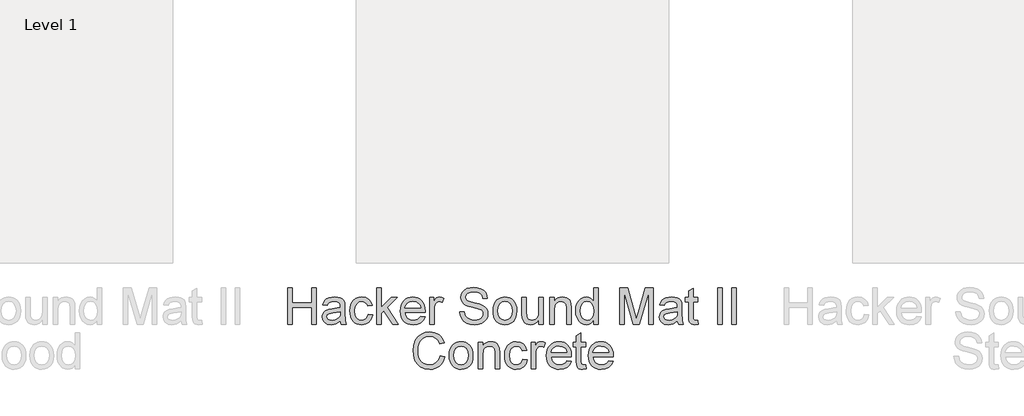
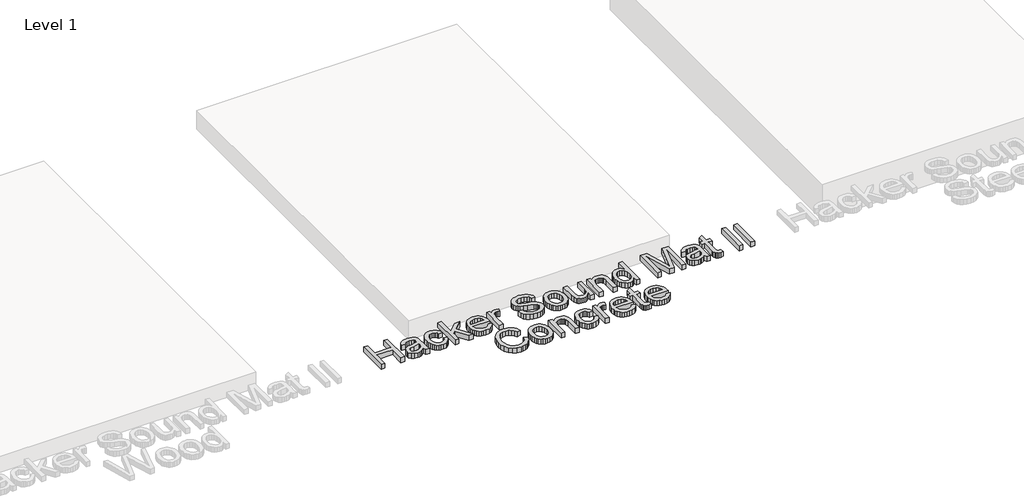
# One storey, part 2 of 3: 1 proxy.
"""IFC4 building model written with IfcOpenShell, lengths in millimetres."""

from ifc_helpers import new_model, si_unit, origin, origin_with_axes, place, context, project, spatial, polyline, outline, extrude, element, save

model = new_model("IFC4")

# Units and contexts
model_context = context("Model", 3, world=origin())
ifc_project = project(units=[si_unit("LENGTHUNIT", "METRE", prefix="MILLI")], contexts=[model_context])

# Site, building, storey
site = spatial("IfcSite", under=ifc_project)
building = spatial("IfcBuilding", under=site)
storey = spatial("IfcBuildingStorey", under=building, Name="Level 1", Elevation=0.0)

# Proxy
placement = place(None, origin())
element("IfcBuildingElementProxy", 1, Name="600mm Arial", ObjectType="600mm Arial", at=placement, inside=storey, context=model_context, shape_type="SweptSolid", body=[
    extrude(outline(polyline([(7120.3560774, -15959.6490726), (7120.3560774, -15659.5383034), (7157.8699235, -15659.5383034), (7157.8699235, -15781.4583034), (7317.3037697, -15781.4583034), (7317.3037697, -15659.5383034), (7354.8176159, -15659.5383034), (7354.8176159, -15959.6490726), (7317.3037697, -15959.6490726), (7317.3037697, -15818.9721496), (7157.8699235, -15818.9721496), (7157.8699235, -15959.6490726), (7120.3560774, -15959.6490726)])), origin_with_axes(), (0.0, 0.0, 1.0), 50.8),
    extrude(outline(polyline([(7556.4545389, -15931.513688), (7538.5310534, -15946.8819092), (7520.0763659, -15956.9381111), (7500.6691784, -15962.4882553), (7479.8881928, -15964.3383034), (7448.5381207, -15959.8871976), (7425.4125197, -15946.5338803), (7411.1524957, -15926.2566207), (7406.3991543, -15901.033688), (7408.1942505, -15885.4822938), (7413.5795389, -15871.3596496), (7421.886438, -15859.2702265), (7432.4463659, -15849.8184957), (7458.7133851, -15837.5092649), (7491.1716543, -15831.8675342), (7529.5280966, -15825.9327265), (7556.2347312, -15818.9721496), (7556.4545389, -15810.6194572), (7553.8717985, -15793.877438), (7546.1235774, -15782.923688), (7528.7954043, -15774.7908034), (7504.6531928, -15772.0798419), (7482.3060774, -15773.8840967), (7466.6997312, -15779.2968611), (7456.0573755, -15789.3072697), (7448.6022312, -15804.9044572), (7411.0883851, -15800.2152265), (7417.600188, -15779.6998419), (7427.3175197, -15763.5806111), (7441.147087, -15751.253063), (7459.9955966, -15742.1127265), (7483.0479284, -15736.4526784), (7509.488962, -15734.5659957), (7534.8492745, -15736.2328707), (7554.9525197, -15741.2334957), (7570.1100918, -15748.7527505), (7580.6333851, -15757.9755149), (7587.6122793, -15769.378039), (7592.1366543, -15783.4365726), (7593.9683851, -15816.261188), (7593.9683851, -15862.933688), (7595.8733851, -15928.1066688), (7603.3468466, -15959.6490726), (7565.8330005, -15959.6490726), (7556.4545389, -15931.513688)]), holes=[polyline([(7556.4545389, -15856.4859957), (7495.9341543, -15867.9892649), (7463.6590582, -15874.0706111), (7449.0418466, -15883.9619572), (7443.9130005, -15898.3959957), (7446.7063899, -15909.5512361), (7455.0865582, -15918.6915726), (7468.8703322, -15924.7912361), (7487.8745389, -15926.8244572), (7508.0235774, -15924.5805871), (7525.8280005, -15917.8489765), (7540.2620389, -15907.9301544), (7550.2999235, -15896.1246496), (7554.7510293, -15883.9619572), (7556.2347312, -15867.1100342), (7556.4545389, -15856.4859957)])]), origin_with_axes(), (0.0, 0.0, 1.0), 50.8),
    extrude(outline(polyline([(7786.2268466, -15879.9321496), (7823.7406928, -15884.6213803), (7813.2815101, -15917.9863563), (7793.6270389, -15943.2001303), (7766.6273274, -15959.0537601), (7734.1324235, -15964.3383034), (7713.092706, -15962.4951243), (7694.2281687, -15956.9655871), (7677.5388118, -15947.7496916), (7663.0246351, -15934.847438), (7651.2763719, -15918.5015306), (7642.8847553, -15898.9546736), (7637.8497853, -15876.2068671), (7636.171462, -15850.2581111), (7639.0381207, -15816.8748178), (7647.6380966, -15787.9426303), (7662.1087697, -15764.5789044), (7682.5875197, -15747.9009957), (7707.0869187, -15737.8997457), (7733.6195389, -15734.5659957), (7765.3176399, -15739.1453226), (7790.6596351, -15752.8833034), (7808.839563, -15775.0472457), (7819.051462, -15804.9044572), (7781.5376159, -15809.593688), (7774.732736, -15793.2271736), (7764.1361735, -15781.494938), (7750.3340822, -15774.4336159), (7733.9126159, -15772.0798419), (7709.6696591, -15776.7141207), (7690.4273274, -15790.6169572), (7677.870813, -15814.5393611), (7673.6853082, -15849.2323419), (7677.7792264, -15884.392414), (7690.0609812, -15908.3972457), (7708.9552841, -15922.2176544), (7732.8868466, -15926.8244572), (7752.3123514, -15923.9486399), (7768.2392505, -15915.321188), (7779.8249476, -15900.7222938), (7786.2268466, -15879.9321496)])), origin_with_axes(), (0.0, 0.0, 1.0), 50.8),
    extrude(outline(polyline([(7856.5653082, -15959.6490726), (7856.5653082, -15659.5383034), (7894.0791543, -15659.5383034), (7894.0791543, -15820.8038803), (7978.1922312, -15739.2552265), (8030.0668466, -15739.2552265), (7944.9280005, -15821.8296496), (8034.7560774, -15959.6490726), (7990.9410774, -15959.6490726), (7918.0381928, -15847.9134957), (7894.0791543, -15871.1398419), (7894.0791543, -15959.6490726), (7856.5653082, -15959.6490726)])), origin_with_axes(), (0.0, 0.0, 1.0), 50.8),
    extrude(outline(polyline([(8221.8856928, -15893.9998419), (8258.6668466, -15898.6890726), (8245.4142745, -15926.4031592), (8224.2669428, -15947.1200342), (8195.7011014, -15960.0337361), (8160.1930005, -15964.3383034), (8136.9162817, -15962.4813863), (8116.1765101, -15956.9106351), (8097.9736856, -15947.6260498), (8082.3078082, -15934.6276303), (8069.7100798, -15918.2771435), (8060.7117024, -15898.9363563), (8055.312676, -15876.6052685), (8053.5130005, -15851.2838803), (8055.3309933, -15825.1038683), (8060.7849716, -15802.0286399), (8069.8749356, -15782.0581952), (8082.6008851, -15765.1925342), (8098.2255485, -15751.7934236), (8116.0116543, -15742.2226303), (8135.9592024, -15736.4801544), (8158.0681928, -15734.5659957), (8179.4650978, -15736.475575), (8198.8150437, -15742.204313), (8216.1180305, -15751.7522096), (8231.3740582, -15765.1192649), (8243.8275377, -15781.9482914), (8252.7228803, -15801.8821015), (8258.0600858, -15824.9206952), (8259.8391543, -15851.0640726), (8259.6193466, -15861.1752265), (8091.0268466, -15861.1752265), (8097.5203322, -15889.2556592), (8112.6046351, -15909.8992649), (8134.3747553, -15922.5931592), (8160.9256928, -15926.8244572), (8180.8915582, -15924.8645053), (8197.7068466, -15918.9846496), (8211.3715582, -15908.8185438), (8221.8856928, -15893.9998419)]), holes=[polyline([(8091.0268466, -15823.6613803), (8222.3253082, -15823.6613803), (8217.2514139, -15803.8420534), (8207.3051159, -15789.6644572), (8185.4342505, -15776.4759957), (8157.9216543, -15772.0798419), (8132.634611, -15775.5876063), (8111.7254043, -15786.1108996), (8097.1906207, -15802.5140486), (8091.0268466, -15823.6613803)])]), origin_with_axes(), (0.0, 0.0, 1.0), 50.8),
    extrude(outline(polyline([(8297.3530005, -15959.6490726), (8297.3530005, -15739.2552265), (8330.1776159, -15739.2552265), (8330.1776159, -15771.8600342), (8342.3036735, -15752.9565726), (8353.4772312, -15741.8196496), (8364.6874235, -15736.3794092), (8376.9233851, -15734.5659957), (8395.6070389, -15737.4601303), (8414.5837697, -15746.1425342), (8402.0547312, -15779.7731111), (8388.8662697, -15774.0031592), (8375.6778082, -15772.0798419), (8364.4767745, -15773.9298899), (8354.4663659, -15779.4800342), (8346.3792745, -15788.3089765), (8340.9481928, -15799.9954188), (8336.3871832, -15820.9504188), (8334.8668466, -15843.8104188), (8334.8668466, -15959.6490726), (8297.3530005, -15959.6490726)])), origin_with_axes(), (0.0, 0.0, 1.0), 50.8),
    extrude(outline(polyline([(8545.8822312, -15856.4859957), (8583.3960774, -15856.4859957), (8587.7006447, -15877.3036159), (8595.4855005, -15894.0364765), (8607.6298755, -15907.3165246), (8625.0130005, -15917.7757072), (8646.2610774, -15924.5622697), (8670.0003082, -15926.8244572), (8690.9003562, -15925.111789), (8709.1993466, -15919.9737842), (8724.0272072, -15911.8408996), (8734.5138659, -15901.1435919), (8740.7509091, -15888.8618371), (8742.8299235, -15875.9756111), (8741.2729524, -15863.4190967), (8736.6020389, -15852.5660919), (8727.1136735, -15843.3066928), (8711.1043466, -15835.5309957), (8656.4821351, -15821.2068611), (8620.6260053, -15811.7276544), (8597.6835774, -15802.7063803), (8579.0090822, -15790.0857553), (8565.7748274, -15774.7908034), (8557.8892264, -15757.1512361), (8555.2606928, -15737.4967649), (8558.5120149, -15715.5251544), (8568.2659812, -15695.0372457), (8584.2661495, -15677.672438), (8606.2560774, -15665.0701303), (8632.6513178, -15657.4043371), (8661.8674235, -15654.8490726), (8693.5197312, -15657.5233996), (8721.2155005, -15665.5463803), (8743.9655966, -15678.7531592), (8760.7808851, -15696.9788803), (8771.4232409, -15719.0878707), (8775.6545389, -15743.9444572), (8738.1406928, -15743.9444572), (8731.2533851, -15721.5607072), (8716.8926159, -15705.4048419), (8694.4539139, -15695.6233996), (8663.3328082, -15692.3629188), (8631.4790101, -15695.5867649), (8609.626462, -15705.2583034), (8596.9875197, -15719.4908515), (8592.7745389, -15736.3977265), (8595.7602601, -15750.8134476), (8604.7174235, -15762.4083034), (8625.8922312, -15772.7758996), (8665.9705005, -15783.3633034), (8707.3309812, -15793.4195053), (8732.3524235, -15802.1934957), (8753.7378803, -15815.8032553), (8768.6573274, -15832.6002265), (8777.4221591, -15852.4012361), (8780.3437697, -15875.0231111), (8776.9825437, -15898.1487121), (8766.8988659, -15919.9005149), (8750.5048755, -15938.6208034), (8728.212712, -15952.6518611), (8701.4053322, -15961.4166928), (8671.4656928, -15964.3383034), (8634.7120149, -15961.1877265), (8604.4609812, -15951.7359957), (8580.364563, -15935.9464765), (8562.0747312, -15913.7825342), (8550.333337, -15886.7828226), (8545.8822312, -15856.4859957)])), origin_with_axes(), (0.0, 0.0, 1.0), 50.8),
    extrude(outline(polyline([(8822.5468466, -15849.4521496), (8824.5754885, -15820.9092048), (8830.6614139, -15796.3136399), (8840.8046231, -15775.6654548), (8855.0051159, -15758.9646496), (8869.3017745, -15748.2902385), (8885.0821351, -15740.6656592), (8902.3461976, -15736.0909116), (8921.093962, -15734.5659957), (8941.79023, -15736.4229128), (8960.5036495, -15741.993664), (8977.2342204, -15751.2782493), (8991.9819428, -15764.2766688), (9004.0187036, -15780.549307), (9012.6163899, -15799.6565486), (9017.7750017, -15821.5983935), (9019.4945389, -15846.3748419), (9016.4538659, -15884.2733515), (9007.3318466, -15913.1231111), (8992.3940822, -15934.7283755), (8971.9061735, -15950.8933996), (8947.5716303, -15960.9770774), (8921.093962, -15964.3383034), (8900.0954584, -15962.4882553), (8881.2080245, -15956.9381111), (8864.4316603, -15947.6878707), (8849.7663659, -15934.7375342), (8837.8578262, -15918.3069092), (8829.3517264, -15898.6158034), (8824.2480666, -15875.6642169), (8822.5468466, -15849.4521496)]), holes=[polyline([(8860.0606928, -15849.3788803), (8864.4018947, -15883.3300101), (8877.4255005, -15907.5180149), (8897.0250197, -15921.9978467), (8921.093962, -15926.8244572), (8945.0530005, -15921.9703707), (8964.6158851, -15907.4081111), (8977.6394909, -15882.8995534), (8981.9806928, -15848.2065726), (8977.6120149, -15815.2445774), (8964.5059812, -15791.3862842), (8944.9156207, -15776.9064524), (8921.093962, -15772.0798419), (8897.0250197, -15776.8881351), (8877.4255005, -15791.3130149), (8864.4018947, -15815.4460678), (8860.0606928, -15849.3788803)])]), origin_with_axes(), (0.0, 0.0, 1.0), 50.8),
    extrude(outline(polyline([(9202.3745389, -15959.6490726), (9202.3745389, -15921.7688803), (9188.8014139, -15940.3930029), (9172.9935774, -15953.6959476), (9154.9510293, -15961.6777145), (9134.6737697, -15964.3383034), (9116.4022553, -15962.469938), (9099.3946351, -15956.8648419), (9085.1254524, -15948.4388803), (9075.0692505, -15938.1079188), (9063.8956928, -15910.4854188), (9061.6976159, -15875.6092649), (9061.6976159, -15739.2552265), (9099.211462, -15739.2552265), (9099.211462, -15857.9513803), (9101.4828082, -15896.1979188), (9106.9505245, -15908.9559236), (9116.3198274, -15918.654938), (9128.9679284, -15924.7820774), (9144.2720389, -15926.8244572), (9160.4553803, -15924.7362842), (9175.5946351, -15918.4717649), (9188.0778803, -15908.6078947), (9196.2931928, -15895.7216688), (9200.8542024, -15878.0729428), (9202.3745389, -15853.9215726), (9202.3745389, -15739.2552265), (9239.8883851, -15739.2552265), (9239.8883851, -15959.6490726), (9202.3745389, -15959.6490726)])), origin_with_axes(), (0.0, 0.0, 1.0), 50.8),
    extrude(outline(polyline([(9291.4699235, -15959.6490726), (9291.4699235, -15739.2552265), (9328.9837697, -15739.2552265), (9328.9837697, -15770.0283034), (9342.0165341, -15754.5135438), (9357.6686735, -15743.4315726), (9375.940188, -15736.7823899), (9396.8310774, -15734.5659957), (9415.3223995, -15736.3519332), (9432.2567505, -15741.7097457), (9446.3793947, -15749.9708515), (9456.4355966, -15760.4666688), (9467.6824235, -15788.0525342), (9469.6606928, -15824.3208034), (9469.6606928, -15959.6490726), (9432.1468466, -15959.6490726), (9432.1468466, -15829.3763803), (9427.823962, -15796.1854188), (9421.843361, -15786.3032313), (9412.5473274, -15778.637438), (9400.6319187, -15773.7192409), (9386.7931928, -15772.0798419), (9364.8215822, -15775.7616207), (9346.0921351, -15786.8069572), (9338.6072252, -15795.823652), (9333.260861, -15808.1466207), (9328.9837697, -15842.7113803), (9328.9837697, -15959.6490726), (9291.4699235, -15959.6490726)])), origin_with_axes(), (0.0, 0.0, 1.0), 50.8),
    extrude(outline(polyline([(9657.2299235, -15959.6490726), (9657.2299235, -15924.2600342), (9646.0059933, -15941.794277), (9632.4099716, -15954.3187361), (9616.4418586, -15961.8334116), (9598.1016543, -15964.3383034), (9573.8495389, -15960.7114765), (9551.648962, -15949.8309957), (9532.8554043, -15932.4570294), (9518.8243466, -15909.3497457), (9510.0869909, -15881.4433274), (9507.1745389, -15849.6719572), (9509.8580245, -15818.2944092), (9517.9084812, -15789.9575342), (9531.3167505, -15766.2732553), (9550.0736735, -15748.8534957), (9572.7596591, -15738.1378707), (9597.9551159, -15734.5659957), (9616.3090582, -15737.1212601), (9632.5381928, -15744.7870534), (9646.2944909, -15756.5376063), (9657.2299235, -15771.3471496), (9657.2299235, -15659.5383034), (9694.7437697, -15659.5383034), (9694.7437697, -15959.6490726), (9657.2299235, -15959.6490726)]), holes=[polyline([(9544.6883851, -15849.5254188), (9548.9196832, -15883.4582313), (9561.6135774, -15907.5912842), (9580.0591062, -15922.016164), (9601.5453082, -15926.8244572), (9623.0223514, -15922.2359717), (9641.0007889, -15908.4705149), (9653.1726399, -15885.2716447), (9657.2299235, -15852.3829188), (9653.0993707, -15816.4260438), (9640.707712, -15791.496188), (9622.2713418, -15776.9339284), (9600.0066543, -15772.0798419), (9578.3006447, -15776.7415967), (9560.5145389, -15790.7268611), (9548.6449235, -15814.7500101), (9544.6883851, -15849.5254188)])]), origin_with_axes(), (0.0, 0.0, 1.0), 50.8),
    extrude(outline(polyline([(9872.9345389, -15959.6490726), (9872.9345389, -15659.5383034), (9937.4847312, -15659.5383034), (9998.8843466, -15871.0665726), (10011.2668466, -15915.2479188), (10024.6751159, -15867.4031111), (10085.048962, -15659.5383034), (10149.5991543, -15659.5383034), (10149.5991543, -15959.6490726), (10112.0853082, -15959.6490726), (10112.0853082, -15697.0521496), (10036.6912697, -15959.6490726), (9985.8424235, -15959.6490726), (9910.4483851, -15697.0521496), (9910.4483851, -15959.6490726), (9872.9345389, -15959.6490726)])), origin_with_axes(), (0.0, 0.0, 1.0), 50.8),
    extrude(outline(polyline([(10351.2360774, -15931.513688), (10333.3125918, -15946.8819092), (10314.8579043, -15956.9381111), (10295.4507168, -15962.4882553), (10274.6697312, -15964.3383034), (10243.3196591, -15959.8871976), (10220.1940582, -15946.5338803), (10205.9340341, -15926.2566207), (10201.1806928, -15901.033688), (10202.9757889, -15885.4822938), (10208.3610774, -15871.3596496), (10216.6679764, -15859.2702265), (10227.2279043, -15849.8184957), (10253.4949235, -15837.5092649), (10285.9531928, -15831.8675342), (10324.3096351, -15825.9327265), (10351.0162697, -15818.9721496), (10351.2360774, -15810.6194572), (10348.653337, -15793.877438), (10340.9051159, -15782.923688), (10323.5769428, -15774.7908034), (10299.4347312, -15772.0798419), (10277.0876159, -15773.8840967), (10261.4812697, -15779.2968611), (10250.8389139, -15789.3072697), (10243.3837697, -15804.9044572), (10205.8699235, -15800.2152265), (10212.3817264, -15779.6998419), (10222.0990582, -15763.5806111), (10235.9286255, -15751.253063), (10254.7771351, -15742.1127265), (10277.8294668, -15736.4526784), (10304.2705005, -15734.5659957), (10329.630813, -15736.2328707), (10349.7340582, -15741.2334957), (10364.8916303, -15748.7527505), (10375.4149235, -15757.9755149), (10382.3938178, -15769.378039), (10386.9181928, -15783.4365726), (10388.7499235, -15816.261188), (10388.7499235, -15862.933688), (10390.6549235, -15928.1066688), (10398.1283851, -15959.6490726), (10360.6145389, -15959.6490726), (10351.2360774, -15931.513688)]), holes=[polyline([(10351.2360774, -15856.4859957), (10290.7156928, -15867.9892649), (10258.4405966, -15874.0706111), (10243.8233851, -15883.9619572), (10238.6945389, -15898.3959957), (10241.4879284, -15909.5512361), (10249.8680966, -15918.6915726), (10263.6518707, -15924.7912361), (10282.6560774, -15926.8244572), (10302.8051159, -15924.5805871), (10320.6095389, -15917.8489765), (10335.0435774, -15907.9301544), (10345.081462, -15896.1246496), (10349.5325678, -15883.9619572), (10351.0162697, -15867.1100342), (10351.2360774, -15856.4859957)])]), origin_with_axes(), (0.0, 0.0, 1.0), 50.8),
    extrude(outline(polyline([(10520.0483851, -15928.3631111), (10524.7376159, -15960.7481111), (10496.6755005, -15964.3383034), (10478.669587, -15962.7813322), (10465.2430005, -15958.1104188), (10455.7546351, -15950.9117169), (10449.5633851, -15941.7713803), (10446.1563659, -15926.0734476), (10445.0206928, -15899.2019572), (10445.0206928, -15776.7690726), (10416.8853082, -15776.7690726), (10416.8853082, -15739.2552265), (10445.0206928, -15739.2552265), (10445.0206928, -15685.6954188), (10482.5345389, -15663.6413803), (10482.5345389, -15739.2552265), (10520.0483851, -15739.2552265), (10520.0483851, -15776.7690726), (10482.5345389, -15776.7690726), (10482.5345389, -15898.1029188), (10484.5128082, -15917.4459957), (10490.9238659, -15924.2966688), (10503.7093466, -15926.8244572), (10520.0483851, -15928.3631111)])), origin_with_axes(), (0.0, 0.0, 1.0), 50.8),
    extrude(outline(polyline([(10684.171462, -15959.6490726), (10684.171462, -15659.5383034), (10721.6853082, -15659.5383034), (10721.6853082, -15959.6490726), (10684.171462, -15959.6490726)])), origin_with_axes(), (0.0, 0.0, 1.0), 50.8),
    extrude(outline(polyline([(10801.4022312, -15959.6490726), (10801.4022312, -15659.5383034), (10838.9160774, -15659.5383034), (10838.9160774, -15959.6490726), (10801.4022312, -15959.6490726)])), origin_with_axes(), (0.0, 0.0, 1.0), 50.8),
    extrude(outline(polyline([(8384.1037697, -16223.4183034), (8421.6176159, -16233.0898419), (8414.1945269, -16256.4192229), (8404.3077601, -16276.8040967), (8391.9573154, -16294.2444633), (8377.1431928, -16308.7403226), (8360.1996832, -16320.1359777), (8341.4610774, -16328.2757313), (8320.9273755, -16333.1595834), (8298.5985774, -16334.7875342), (8255.085813, -16329.8601784), (8220.530212, -16315.0781111), (8194.0433851, -16290.9542169), (8174.7369428, -16258.0013803), (8162.9497553, -16219.2602746), (8159.0206928, -16177.7715726), (8163.4626399, -16134.0115246), (8176.7884812, -16096.2229188), (8198.3021591, -16065.605539), (8227.3076159, -16043.3591688), (8261.7075197, -16029.8135197), (8299.4045389, -16025.2983034), (8340.5360534, -16031.1415246), (8358.4297733, -16038.445551), (8374.5421351, -16048.671188), (8388.6075377, -16061.5482553), (8400.3603803, -16076.8065726), (8416.9283851, -16114.4669572), (8379.4145389, -16123.4058034), (8366.4092505, -16096.0489044), (8348.641462, -16077.2828226), (8325.8913659, -16066.4298178), (8297.9391543, -16062.8121496), (8265.7190101, -16066.8236399), (8239.2505005, -16078.8581111), (8219.1655726, -16097.6516688), (8206.0961735, -16121.9404188), (8198.9249476, -16149.398063), (8196.5345389, -16177.6983034), (8199.364563, -16212.3546496), (8207.8546351, -16242.3217649), (8222.3253082, -16266.4548178), (8243.0971351, -16283.6089765), (8267.9995149, -16293.8575101), (8294.8618466, -16297.273688), (8326.1752841, -16292.6210919), (8352.2682889, -16278.6633034), (8371.9685534, -16255.5468611), (8384.1037697, -16223.4183034)])), origin_with_axes(), (0.0, 0.0, 1.0), 50.8),
    extrude(outline(polyline([(8459.131462, -16219.9013803), (8461.1601038, -16191.3584356), (8467.2460293, -16166.7628707), (8477.3892385, -16146.1146856), (8491.5897312, -16129.4138803), (8505.8863899, -16118.7394693), (8521.6667505, -16111.1148899), (8538.930813, -16106.5401423), (8557.6785774, -16105.0152265), (8578.3748454, -16106.8721435), (8597.0882649, -16112.4428947), (8613.8188358, -16121.7274801), (8628.5665582, -16134.7258996), (8640.603319, -16150.9985378), (8649.2010053, -16170.1057794), (8654.3596171, -16192.0476243), (8656.0791543, -16216.8240726), (8653.0384812, -16254.7225822), (8643.916462, -16283.5723419), (8628.9786976, -16305.1776063), (8608.4907889, -16321.3426303), (8584.1562457, -16331.4263082), (8557.6785774, -16334.7875342), (8536.6800738, -16332.9374861), (8517.7926399, -16327.3873419), (8501.0162757, -16318.1371015), (8486.3509812, -16305.1867649), (8474.4424416, -16288.7561399), (8465.9363418, -16269.0650342), (8460.832682, -16246.1134476), (8459.131462, -16219.9013803)]), holes=[polyline([(8496.6453082, -16219.8281111), (8500.9865101, -16253.7792409), (8514.0101159, -16277.9672457), (8533.6096351, -16292.4470774), (8557.6785774, -16297.273688), (8581.6376159, -16292.4196015), (8601.2005005, -16277.8573419), (8614.2241062, -16253.3487842), (8618.5653082, -16218.6558034), (8614.1966303, -16185.6938082), (8601.0905966, -16161.8355149), (8581.500236, -16147.3556832), (8557.6785774, -16142.5290726), (8533.6096351, -16147.3373659), (8514.0101159, -16161.7622457), (8500.9865101, -16185.8952986), (8496.6453082, -16219.8281111)])]), origin_with_axes(), (0.0, 0.0, 1.0), 50.8),
    extrude(outline(polyline([(8698.2822312, -16330.0983034), (8698.2822312, -16109.7044572), (8735.7960774, -16109.7044572), (8735.7960774, -16140.4775342), (8748.8288418, -16124.9627746), (8764.4809812, -16113.8808034), (8782.7524957, -16107.2316207), (8803.6433851, -16105.0152265), (8822.1347072, -16106.801164), (8839.0690582, -16112.1589765), (8853.1917024, -16120.4200822), (8863.2479043, -16130.9158996), (8874.4947312, -16158.5017649), (8876.4730005, -16194.7700342), (8876.4730005, -16330.0983034), (8838.9591543, -16330.0983034), (8838.9591543, -16199.8256111), (8834.6362697, -16166.6346496), (8828.6556687, -16156.7524621), (8819.3596351, -16149.0866688), (8807.4442264, -16144.1684717), (8793.6055005, -16142.5290726), (8771.6338899, -16146.2108515), (8752.9044428, -16157.256188), (8745.4195329, -16166.2728827), (8740.0731687, -16178.5958515), (8735.7960774, -16213.1606111), (8735.7960774, -16330.0983034), (8698.2822312, -16330.0983034)])), origin_with_axes(), (0.0, 0.0, 1.0), 50.8),
    extrude(outline(polyline([(9068.731462, -16250.3813803), (9106.2453082, -16255.0706111), (9095.7861255, -16288.4355871), (9076.1316543, -16313.6493611), (9049.1319428, -16329.5029909), (9016.6370389, -16334.7875342), (8995.5973214, -16332.9443551), (8976.7327841, -16327.4148178), (8960.0434272, -16318.1989224), (8945.5292505, -16305.2966688), (8933.7809872, -16288.9507613), (8925.3893707, -16269.4039044), (8920.3544007, -16246.6560979), (8918.6760774, -16220.7073419), (8921.542736, -16187.3240486), (8930.142712, -16158.3918611), (8944.6133851, -16135.0281351), (8965.0921351, -16118.3502265), (8989.5915341, -16108.3489765), (9016.1241543, -16105.0152265), (9047.8222553, -16109.5945534), (9073.1642505, -16123.3325342), (9091.3441784, -16145.4964765), (9101.5560774, -16175.353688), (9064.0422312, -16180.0429188), (9057.2373514, -16163.6764044), (9046.6407889, -16151.9441688), (9032.8386976, -16144.8828467), (9016.4172312, -16142.5290726), (8992.1742745, -16147.1633515), (8972.9319428, -16161.066188), (8960.3754284, -16184.9885919), (8956.1899235, -16219.6815726), (8960.2838418, -16254.8416447), (8972.5655966, -16278.8464765), (8991.4598995, -16292.6668851), (9015.391462, -16297.273688), (9034.8169668, -16294.3978707), (9050.7438659, -16285.7704188), (9062.329563, -16271.1715246), (9068.731462, -16250.3813803)])), origin_with_axes(), (0.0, 0.0, 1.0), 50.8),
    extrude(outline(polyline([(9139.0699235, -16330.0983034), (9139.0699235, -16109.7044572), (9171.8945389, -16109.7044572), (9171.8945389, -16142.3092649), (9184.0205966, -16123.4058034), (9195.1941543, -16112.2688803), (9206.4043466, -16106.8286399), (9218.6403082, -16105.0152265), (9237.323962, -16107.9093611), (9256.3006928, -16116.5917649), (9243.7716543, -16150.2223419), (9230.5831928, -16144.4523899), (9217.3947312, -16142.5290726), (9206.1936976, -16144.3791207), (9196.1832889, -16149.9292649), (9188.0961976, -16158.7582072), (9182.6651159, -16170.4446496), (9178.1041062, -16191.3996496), (9176.5837697, -16214.2596496), (9176.5837697, -16330.0983034), (9139.0699235, -16330.0983034)])), origin_with_axes(), (0.0, 0.0, 1.0), 50.8),
    extrude(outline(polyline([(9434.0518466, -16264.4490726), (9470.8330005, -16269.1383034), (9457.5804284, -16296.8523899), (9436.4330966, -16317.5692649), (9407.8672553, -16330.4829669), (9372.3591543, -16334.7875342), (9349.0824356, -16332.9306171), (9328.3426639, -16327.3598659), (9310.1398394, -16318.0752806), (9294.473962, -16305.0768611), (9281.8762336, -16288.7263743), (9272.8778562, -16269.3855871), (9267.4788298, -16247.0544993), (9265.6791543, -16221.7331111), (9267.4971471, -16195.5530991), (9272.9511255, -16172.4778707), (9282.0410894, -16152.507426), (9294.7670389, -16135.6417649), (9310.3917024, -16122.2426544), (9328.1778082, -16112.6718611), (9348.1253562, -16106.9293851), (9370.2343466, -16105.0152265), (9391.6312517, -16106.9248058), (9410.9811976, -16112.6535438), (9428.2841844, -16122.2014404), (9443.540212, -16135.5684957), (9455.9936916, -16152.3975221), (9464.8890341, -16172.3313322), (9470.2262397, -16195.369926), (9472.0053082, -16221.5133034), (9471.7855005, -16231.6244572), (9303.1930005, -16231.6244572), (9309.686486, -16259.7048899), (9324.7707889, -16280.3484957), (9346.5409091, -16293.0423899), (9373.0918466, -16297.273688), (9393.057712, -16295.3137361), (9409.8730005, -16289.4338803), (9423.537712, -16279.2677746), (9434.0518466, -16264.4490726)]), holes=[polyline([(9303.1930005, -16194.1106111), (9434.491462, -16194.1106111), (9429.4175678, -16174.2912842), (9419.4712697, -16160.113688), (9397.6004043, -16146.9252265), (9370.0878082, -16142.5290726), (9344.8007649, -16146.0368371), (9323.8915582, -16156.5601303), (9309.3567745, -16172.9632794), (9303.1930005, -16194.1106111)])]), origin_with_axes(), (0.0, 0.0, 1.0), 50.8),
    extrude(outline(polyline([(9589.2360774, -16298.8123419), (9593.9253082, -16331.1973419), (9565.8631928, -16334.7875342), (9547.8572793, -16333.230563), (9534.4306928, -16328.5596496), (9524.9423274, -16321.3609476), (9518.7510774, -16312.2206111), (9515.3440582, -16296.5226784), (9514.2083851, -16269.651188), (9514.2083851, -16147.2183034), (9486.0730005, -16147.2183034), (9486.0730005, -16109.7044572), (9514.2083851, -16109.7044572), (9514.2083851, -16056.1446496), (9551.7222312, -16034.0906111), (9551.7222312, -16109.7044572), (9589.2360774, -16109.7044572), (9589.2360774, -16147.2183034), (9551.7222312, -16147.2183034), (9551.7222312, -16268.5521496), (9553.7005005, -16287.8952265), (9560.1115582, -16294.7458996), (9572.8970389, -16297.273688), (9589.2360774, -16298.8123419)])), origin_with_axes(), (0.0, 0.0, 1.0), 50.8),
    extrude(outline(polyline([(9781.0549235, -16264.4490726), (9817.8360774, -16269.1383034), (9804.5835053, -16296.8523899), (9783.4361735, -16317.5692649), (9754.8703322, -16330.4829669), (9719.3622312, -16334.7875342), (9696.0855125, -16332.9306171), (9675.3457409, -16327.3598659), (9657.1429163, -16318.0752806), (9641.4770389, -16305.0768611), (9628.8793106, -16288.7263743), (9619.8809332, -16269.3855871), (9614.4819067, -16247.0544993), (9612.6822312, -16221.7331111), (9614.500224, -16195.5530991), (9619.9542024, -16172.4778707), (9629.0441663, -16152.507426), (9641.7701159, -16135.6417649), (9657.3947793, -16122.2426544), (9675.1808851, -16112.6718611), (9695.1284332, -16106.9293851), (9717.2374235, -16105.0152265), (9738.6343286, -16106.9248058), (9757.9842745, -16112.6535438), (9775.2872613, -16122.2014404), (9790.5432889, -16135.5684957), (9802.9967685, -16152.3975221), (9811.892111, -16172.3313322), (9817.2293166, -16195.369926), (9819.0083851, -16221.5133034), (9818.7885774, -16231.6244572), (9650.1960774, -16231.6244572), (9656.689563, -16259.7048899), (9671.7738659, -16280.3484957), (9693.543986, -16293.0423899), (9720.0949235, -16297.273688), (9740.0607889, -16295.3137361), (9756.8760774, -16289.4338803), (9770.5407889, -16279.2677746), (9781.0549235, -16264.4490726)]), holes=[polyline([(9650.1960774, -16194.1106111), (9781.4945389, -16194.1106111), (9776.4206447, -16174.2912842), (9766.4743466, -16160.113688), (9744.6034812, -16146.9252265), (9717.0908851, -16142.5290726), (9691.8038418, -16146.0368371), (9670.8946351, -16156.5601303), (9656.3598514, -16172.9632794), (9650.1960774, -16194.1106111)])]), origin_with_axes(), (0.0, 0.0, 1.0), 50.8),
])

save(model, "model.ifc")
